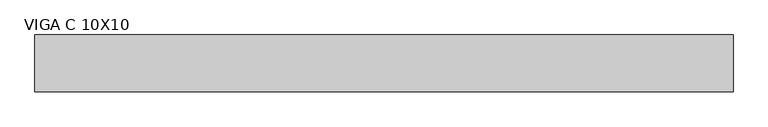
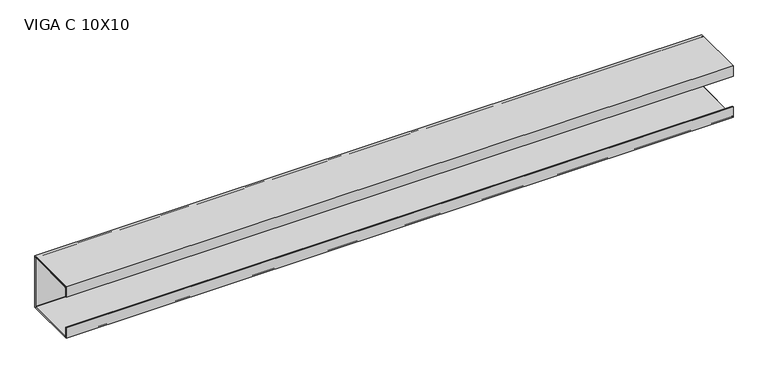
"""IFC4 building model written with IfcOpenShell, lengths in millimetres: beam geometry, VIGA PERFIL C AÇO : VIGA C 10X10."""

from ifc_helpers import new_model, si_unit, point, frame, frame_2d, origin, place, context, project, spatial, polyline, circle_curve, trimmed, segment, composite_curve, outline, extrude, source, transform, mapped, element, save


def viga_c_10x10_f4dafbe5(model_context):
    return source(origin(), model_context, "Body", "SweptSolid", [
        extrude(outline(polyline([(9.2, -50.0), (-90.8, -50.0), (-90.8, -30.0), (-88.9, -30.0), (-88.9, -48.1), (7.3, -48.1), (7.3, 48.1), (-88.9, 48.1), (-88.9, 30.0), (-90.8, 30.0), (-90.8, 50.0), (9.2, 50.0), (9.2, -50.0)])), frame((-623.0, 0.0, 0.0), z_axis=(1.0, 0.0, 0.0), x_axis=(0.0, 1.0, 0.0)), (0.0, 0.0, 1.0), 1231.0),
        extrude(outline(composite_curve([segment(trimmed(circle_curve(frame_2d((5.4, -46.2)), 3.8), [point((9.2, -46.2))], [point((5.4, -50.0))], False, "CARTESIAN"), True, "CONTINUOUS"), segment(polyline([(5.4, -50.0), (-87.0, -50.0)]), True, "CONTINUOUS"), segment(trimmed(circle_curve(frame_2d((-87.0, -46.2)), 3.8), [point((-87.0, -50.0))], [point((-90.8, -46.2))], False, "CARTESIAN"), True, "CONTINUOUS"), segment(polyline([(-90.8, -46.2), (-90.8, -30.0), (-88.9, -30.0), (-88.9, -46.2)]), True, "CONTINUOUS"), segment(trimmed(circle_curve(frame_2d((-87.0, -46.2)), 1.9), [point((-88.9, -46.2))], [point((-87.0, -48.1))], True, "CARTESIAN"), True, "CONTINUOUS"), segment(polyline([(-87.0, -48.1), (5.4, -48.1)]), True, "CONTINUOUS"), segment(trimmed(circle_curve(frame_2d((5.4, -46.2)), 1.9), [point((5.4, -48.1))], [point((7.3, -46.2))], True, "CARTESIAN"), True, "CONTINUOUS"), segment(polyline([(7.3, -46.2), (7.3, 46.2)]), True, "CONTINUOUS"), segment(trimmed(circle_curve(frame_2d((5.4, 46.2)), 1.9), [point((7.3, 46.2))], [point((5.4, 48.1))], True, "CARTESIAN"), True, "CONTINUOUS"), segment(polyline([(5.4, 48.1), (-87.0, 48.1)]), True, "CONTINUOUS"), segment(trimmed(circle_curve(frame_2d((-87.0, 46.2)), 1.9), [point((-87.0, 48.1))], [point((-88.9, 46.2))], True, "CARTESIAN"), True, "CONTINUOUS"), segment(polyline([(-88.9, 46.2), (-88.9, 30.0), (-90.8, 30.0), (-90.8, 46.2)]), True, "CONTINUOUS"), segment(trimmed(circle_curve(frame_2d((-87.0, 46.2)), 3.8), [point((-90.8, 46.2))], [point((-87.0, 50.0))], False, "CARTESIAN"), True, "CONTINUOUS"), segment(polyline([(-87.0, 50.0), (5.4, 50.0)]), True, "CONTINUOUS"), segment(trimmed(circle_curve(frame_2d((5.4, 46.2)), 3.8), [point((5.4, 50.0))], [point((9.2, 46.2))], False, "CARTESIAN"), True, "CONTINUOUS"), segment(polyline([(9.2, 46.2), (9.2, -46.2)]), True, "CONTINUOUS")], self_intersect=False)), frame((-623.0, 0.0, 0.0), z_axis=(1.0, 0.0, 0.0), x_axis=(0.0, 1.0, 0.0)), (0.0, 0.0, 1.0), 1231.0),
    ])


if __name__ == "__main__":
    model = new_model("IFC4")
    model_context = context("Model", 3, world=origin())
    ifc_project = project(units=[si_unit("LENGTHUNIT", "METRE", prefix="MILLI")], contexts=[model_context])
    site = spatial("IfcSite", under=ifc_project)
    building = spatial("IfcBuilding", under=site)
    placement = place(None, origin())
    viga_c_10x10_shape = viga_c_10x10_f4dafbe5(model_context)
    element("IfcBeam", 1, ObjectType="VIGA PERFIL C AÇO : VIGA C 10X10", at=placement, inside=building, context=model_context, shape_type="MappedRepresentation", body=[
        mapped(viga_c_10x10_shape, transform((0.0, 0.0, 0.0), x_axis=(1.0, 0.0, 0.0), y_axis=(0.0, 1.0, 0.0), z_axis=(0.0, 0.0, 1.0))),
    ])
    save(model, "model.ifc")
